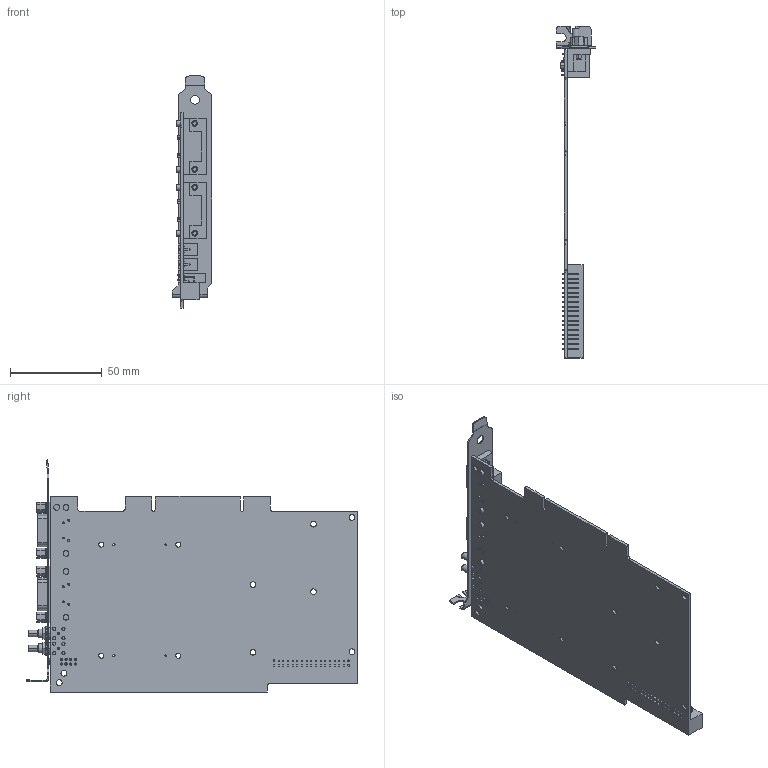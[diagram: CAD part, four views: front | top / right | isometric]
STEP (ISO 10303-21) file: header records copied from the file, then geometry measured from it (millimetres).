
FILE_DESCRIPTION((''),'2;1');
FILE_NAME('CU_PCI-8517','2009-02-19T',('dcrowder'),(''),'PRO/ENGINEER BY PARAMETRIC TECHNOLOGY CORPORATION, 2006080','PRO/ENGINEER BY PARAMETRIC TECHNOLOGY CORPORATION, 2006080','');
FILE_SCHEMA(('CONFIG_CONTROL_DESIGN'));
Length unit declared in the file: inch
Products named in the file (1): CU_PCI-8517
Bounding box: 21.59 x 180.79 x 126.37 mm (x, y, z)
Volume: 39826.5 mm3; surface area: 48283.8 mm2
Topology: 5 solids, 5 shells, 1472 faces, 3923 edges, 2538 vertices
Faces by surface type: plane 997, cylinder 423, bspline 20, cone 16, sphere 16
Entity records: 47725 total; most frequent: CARTESIAN_POINT 9907, ORIENTED_EDGE 7846, DIRECTION 7695, EDGE_CURVE 3923, VECTOR 2919, LINE 2919, VERTEX_POINT 2538, AXIS2_PLACEMENT_3D 2388
